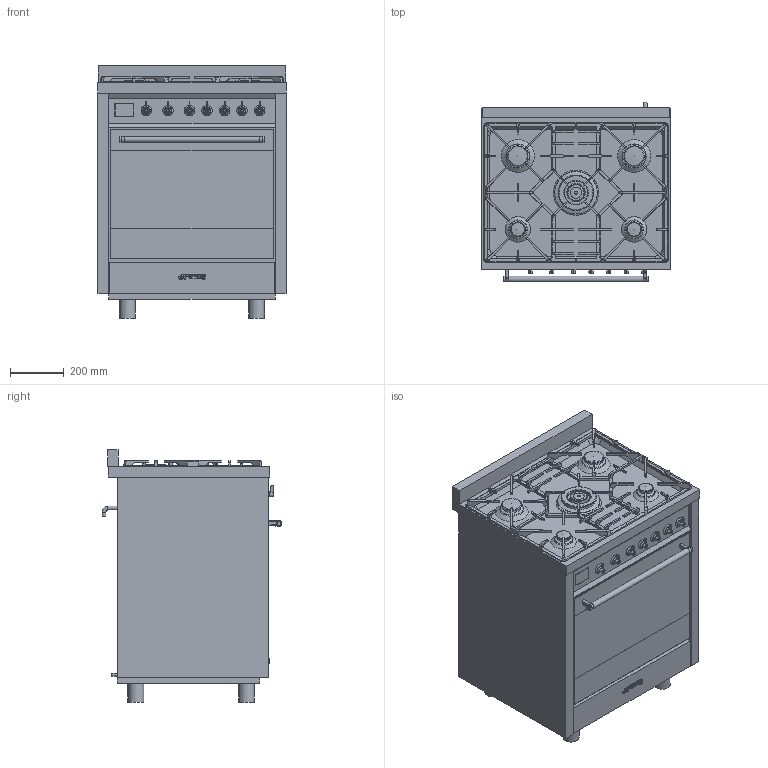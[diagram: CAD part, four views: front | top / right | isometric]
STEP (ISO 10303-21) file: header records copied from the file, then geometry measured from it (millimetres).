
FILE_DESCRIPTION(/* description */ ('Unknown'),/* implementation_level */ '2;1');
FILE_NAME(/* name */ 'C7GPX9',/* time_stamp */ '2025-04-24T11:21:47+02:00',/* author */ ('Unknown'),/* organization */ ('Unknown'),/* preprocessor_version */ 'ST-DEVELOPER v16.7',/* originating_system */ 'DEX',/* authorisation */ $);
FILE_SCHEMA (('AUTOMOTIVE_DESIGN {1 0 10303 214 3 1 1}'));
Length unit declared in the file: millimetre
Products named in the file (1): C7GPX9
Bounding box: 698 x 667.44 x 936.3 mm (x, y, z)
Volume: 298597985.7 mm3; surface area: 4710556 mm2
Topology: 28 solids, 28 shells, 1061 faces, 2845 edges, 1883 vertices
Faces by surface type: plane 628, cylinder 325, bspline 59, cone 32, torus 15, sphere 2
Full cylindrical faces by diameter (mm): 8 x7, 8.5 x7, 8.828 x5, 8.863 x1, 10 x1, 13 x2, 13.5 x2, 14 x2, 14.995 x7, 22 x3, 55 x2, 59 x4, 65.5 x2, 75 x2, 85.5 x2, 158 x1
Entity records: 38265 total; most frequent: CARTESIAN_POINT 9868, ORIENTED_EDGE 5398, DIRECTION 5215, EDGE_CURVE 2699, VERTEX_POINT 1832, AXIS2_PLACEMENT_3D 1749, LINE 1717, VECTOR 1717
